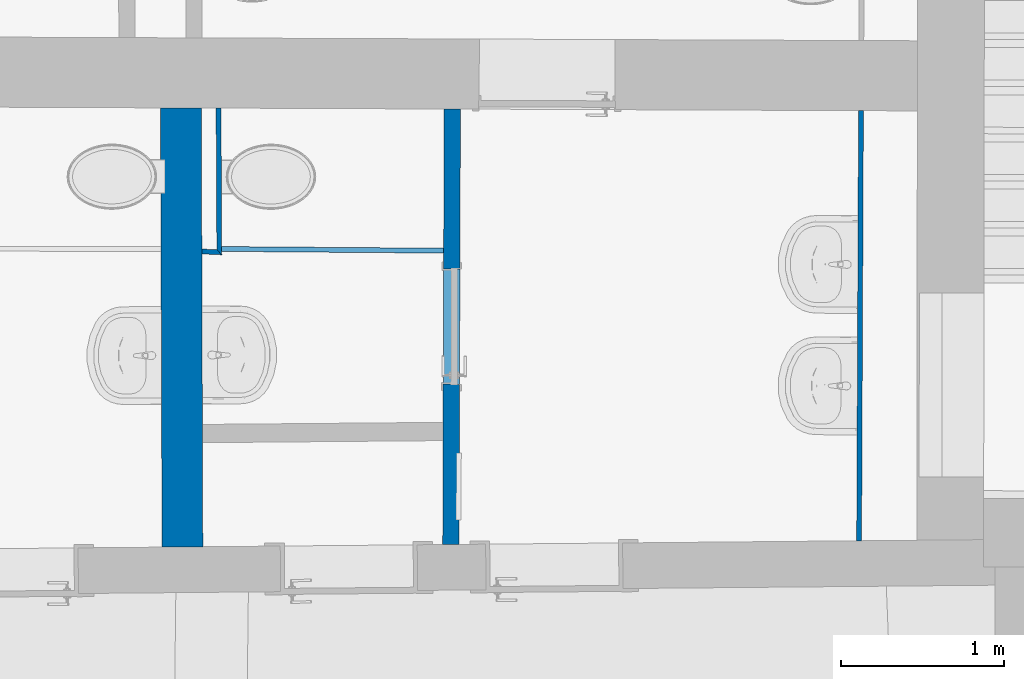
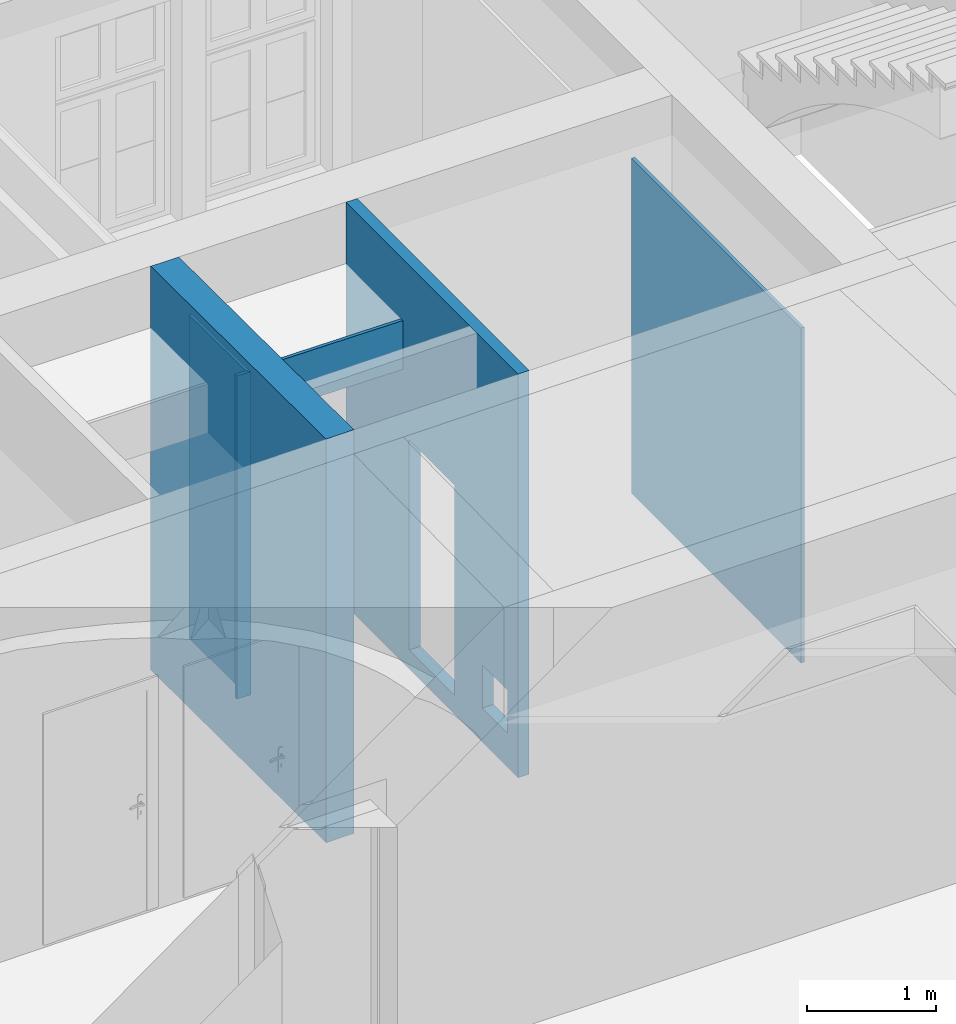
# One storey, part 34 of 158: 6 walls, 2 openings.
"""IFC2X3 building model written with IfcOpenShell, lengths in metres."""

from ifc_helpers import new_model, entity, si_unit, converted_unit, derived_unit, money_unit, direction, frame, origin_with_axes, origin_2d_with_axis, place, context, subcontext, project, spatial, polyline, rectangle, outline, extrude, material, layer, layer_set, layer_usage, type_object, element, save


model = new_model("IFC2X3")

# Units and contexts
model_context = context("Model", 3, precision=1e-05, world=origin_with_axes(), true_north=direction((0.0, 1.0)))
body_context = subcontext(model_context, "Body", "Model", "MODEL_VIEW")
ifc_project = project(units=[si_unit("LENGTHUNIT", "METRE"), si_unit("AREAUNIT", "SQUARE_METRE"), si_unit("VOLUMEUNIT", "CUBIC_METRE"), converted_unit("PLANEANGLEUNIT", "DEGREE", entity("IfcPlaneAngleMeasure", 0.0174532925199), si_unit("PLANEANGLEUNIT", "RADIAN"), dimensions=[0, 0, 0, 0, 0, 0, 0]), money_unit("EUR"), converted_unit("TIMEUNIT", "Year", entity("IfcTimeMeasure", 31556926.0), si_unit("TIMEUNIT", "SECOND"), dimensions=[0, 0, 1, 0, 0, 0, 0]), si_unit("MASSUNIT", "GRAM", prefix="KILO"), si_unit("THERMODYNAMICTEMPERATUREUNIT", "DEGREE_CELSIUS"), si_unit("LUMINOUSINTENSITYUNIT", "LUMEN"), si_unit("ENERGYUNIT", "JOULE", prefix="MEGA"), derived_unit("THERMALCONDUCTANCEUNIT", [(si_unit("POWERUNIT", "WATT"), 1), (si_unit("LENGTHUNIT", "METRE"), -1), (si_unit("THERMODYNAMICTEMPERATUREUNIT", "KELVIN"), -1)]), derived_unit("SPECIFICHEATCAPACITYUNIT", [(si_unit("ENERGYUNIT", "JOULE"), 1), (si_unit("MASSUNIT", "GRAM", prefix="KILO"), -1), (si_unit("THERMODYNAMICTEMPERATUREUNIT", "KELVIN"), -1)]), derived_unit("MASSDENSITYUNIT", [(si_unit("MASSUNIT", "GRAM", prefix="KILO"), 1), (si_unit("VOLUMEUNIT", "CUBIC_METRE"), -1)])], contexts=[model_context])

# Site, building, storey
site_placement = place(None, origin_with_axes())
site = spatial("IfcSite", under=ifc_project, at=site_placement, Name="Gelände", CompositionType="ELEMENT")
building_placement = place(site_placement, origin_with_axes())
building = spatial("IfcBuilding", under=site, at=building_placement, Name="Gebäude", CompositionType="ELEMENT")
storey_placement = place(building_placement, origin_with_axes())
storey = spatial("IfcBuildingStorey", under=building, at=storey_placement, Name="ERDGESCHOSS", CompositionType="ELEMENT", Elevation=0.0)

# Walls
ifc_material = material(Name="43_Gipskarton")
ifc_layer_1 = layer(ifc_material, 0.03, ventilated="UNKNOWN")
ifc_layer_set_1 = layer_set([ifc_layer_1], Name="43_Gipskarton 0.03")
ifc_layer_usage_1 = layer_usage(ifc_layer_set_1, "AXIS2", "NEGATIVE", 0.03)
wall_type_1 = type_object("IfcWallType", Name="43_Gipskarton 30", PredefinedType="ELEMENTEDWALL")
wall_1_placement = place(storey_placement, frame((16.8474896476, 21.2745183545, -0.03), z_axis=(0.0, 0.0, 1.0), x_axis=(0.998890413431, -0.0470950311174, 0.0)))
element("IfcWallStandardCase", 1, at=wall_1_placement, inside=storey, type_object=wall_type_1, material=ifc_layer_usage_1, Name="Wand-032", ObjectType="ELEMENTEDWALL", context=body_context, shape_type="SweptSolid", body=[
    extrude(outline(polyline([(0.250318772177, 0.0), (0.372789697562, 0.0), (0.341181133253, 0.03), (0.248803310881, 0.03), (0.250318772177, 0.0)])), origin_with_axes(), (0.0, 0.0, 1.0), 3.05),
])
ifc_layer_usage_2 = layer_usage(ifc_layer_set_1, "AXIS2", "NEGATIVE", 0.03)
wall_2_placement = place(storey_placement, frame((17.2198657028, 21.2569618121, -0.03), z_axis=(0.0, 0.0, 1.0), x_axis=(-0.0050945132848, 0.999987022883, 0.0)))
element("IfcWallStandardCase", 2, at=wall_2_placement, inside=storey, type_object=wall_type_1, material=ifc_layer_usage_2, Name="Wand-033", ObjectType="ELEMENTEDWALL", context=body_context, shape_type="SweptSolid", body=[
    extrude(outline(polyline([(0.0, 0.0), (0.900287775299, 0.0), (0.900560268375, 0.03), (0.0316085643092, 0.03), (0.0, 0.0)])), origin_with_axes(), (0.0, 0.0, 1.0), 3.05),
])
ifc_layer_usage_3 = layer_usage(ifc_layer_set_1, "AXIS2", "NEGATIVE", 0.0)
wall_3_placement = place(storey_placement, frame((21.1137689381, 19.2225713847, -0.03), z_axis=(0.0, 0.0, 1.0), x_axis=(0.00436244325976, 0.999990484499, 0.0)))
element("IfcWallStandardCase", 3, at=wall_3_placement, inside=storey, type_object=wall_type_1, material=ifc_layer_usage_3, Name="Wand-036", ObjectType="ELEMENTEDWALL", context=body_context, shape_type="SweptSolid", body=[
    extrude(outline(polyline([(0.280429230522, -0.03), (2.91910623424, -0.03), (2.91909501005, 0.0), (0.280025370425, 0.0), (0.280429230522, -0.03)])), origin_with_axes(), (0.0, 0.0, 1.0), 3.16),
])
ifc_layer_usage_4 = layer_usage(ifc_layer_set_1, "AXIS2", "NEGATIVE", 0.0)
wall_4_placement = place(storey_placement, frame((17.219606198, 21.3078992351, 2.56), z_axis=(0.0, 0.0, 1.0), x_axis=(0.999970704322, -0.00765444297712, 0.0)))
element("IfcWallStandardCase", 4, at=wall_4_placement, inside=storey, type_object=wall_type_1, material=ifc_layer_usage_4, Name="Wand-041", ObjectType="ELEMENTEDWALL", context=body_context, shape_type="SweptSolid", body=[
    extrude(outline(polyline([(0.000382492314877, -0.03), (1.3619828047, -0.03), (1.36185109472, 0.0), (0.0, 0.0), (0.000382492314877, -0.03)])), origin_with_axes(), (0.0, 0.0, 1.0), 0.46),
])

# Wall, openings
ifc_layer_2 = layer(ifc_material, 0.1, ventilated="UNKNOWN")
ifc_layer_set_2 = layer_set([ifc_layer_2], Name="43_Gipskarton 0.1")
ifc_layer_usage_5 = layer_usage(ifc_layer_set_2, "AXIS2", "NEGATIVE", 0.0)
wall_type_2 = type_object("IfcWallType", Name="43_Gipskarton 100", PredefinedType="ELEMENTEDWALL")
wall_5_placement = place(storey_placement, frame((18.6842052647, 22.1513793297, -0.210000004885), z_axis=(0.0, 0.0, 1.0), x_axis=(-0.00326420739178, -0.999994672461, 0.0)))
wall_5 = element("IfcWallStandardCase", 5, at=wall_5_placement, inside=storey, type_object=wall_type_2, material=ifc_layer_usage_5, Name="Wand-039", ObjectType="ELEMENTEDWALL", context=body_context, shape_type="SweptSolid", body=[
    extrude(outline(polyline([(-7.24104359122e-05, -0.1), (2.67223283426, -0.1), (2.67099647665, 0.0), (0.0, 0.0), (-7.24104359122e-05, -0.1)])), origin_with_axes(), (0.0, 0.0, 1.0), 3.81000000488),
])
opening_1_placement = place(wall_5_placement, frame((1.33430360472, 0.0, 0.179549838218), z_axis=(0.0, 0.0, 1.0), x_axis=(1.0, 0.0, 0.0)))
element("IfcOpeningElement", 6, at=opening_1_placement, cuts=wall_5, Name="Tür-022", context=body_context, shape_type="SweptSolid", body=[
    extrude(rectangle(XDim=0.708310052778, YDim=1.981769, at=origin_2d_with_axis()), frame((0.0, 0.1, 0.9908845), z_axis=(0.0, 1.0, 0.0), x_axis=(-1.0, 0.0, 0.0)), (0.0, 0.0, -1.0), 0.3),
])
opening_2_placement = place(wall_5_placement, frame((2.31514698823, 0.0, 0.323223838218), z_axis=(0.0, 0.0, 1.0), x_axis=(1.0, 0.0, 0.0)))
element("IfcOpeningElement", 7, at=opening_2_placement, cuts=wall_5, Name="Brandschutzklappe", context=body_context, shape_type="SweptSolid", body=[
    extrude(rectangle(XDim=0.392963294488, YDim=0.406453, at=origin_2d_with_axis()), frame((0.0, -0.0180311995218, 0.2032265), z_axis=(0.0, 1.0, 0.0), x_axis=(1.0, 0.0, 0.0)), (0.0, 0.0, -1.0), 0.181968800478),
    extrude(rectangle(XDim=0.392963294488, YDim=0.406453, at=origin_2d_with_axis()), frame((0.0, -0.0180311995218, 0.2032265), z_axis=(0.0, -1.0, 0.0), x_axis=(1.0, 0.0, 0.0)), (0.0, 0.0, -1.0), 0.118031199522),
])

# Wall
ifc_layer_3 = layer(ifc_material, 0.25, ventilated="UNKNOWN")
ifc_layer_set_3 = layer_set([ifc_layer_3], Name="43_Gipskarton 0.25")
ifc_layer_usage_6 = layer_usage(ifc_layer_set_3, "AXIS2", "NEGATIVE", 0.25)
wall_type_3 = type_object("IfcWallType", Name="43_Gipskarton 250", PredefinedType="ELEMENTEDWALL")
wall_6_placement = place(storey_placement, frame((16.8445187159, 22.1587166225, -0.210000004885), z_axis=(0.0, 0.0, 1.0), x_axis=(0.0033600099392, -0.999994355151, 0.0)))
element("IfcWallStandardCase", 8, at=wall_6_placement, inside=storey, type_object=wall_type_3, material=ifc_layer_usage_6, Name="Wand-039", ObjectType="ELEMENTEDWALL", context=body_context, shape_type="SweptSolid", body=[
    extrude(outline(polyline([(0.0, 0.0), (2.69491230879, 0.0), (2.69347761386, 0.25), (0.00183711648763, 0.25), (0.0, 0.0)])), origin_with_axes(), (0.0, 0.0, 1.0), 3.81000000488),
])

save(model, "model.ifc")
